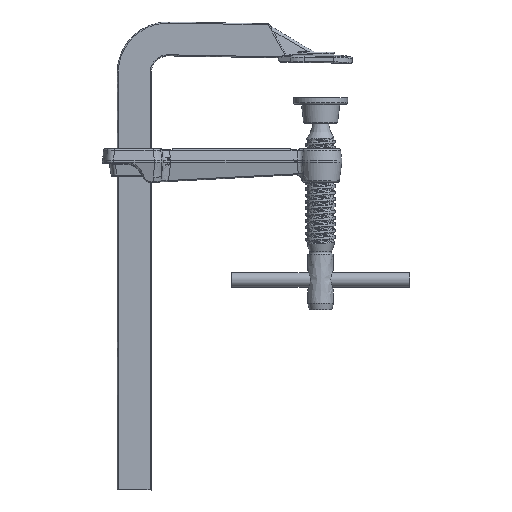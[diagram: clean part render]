
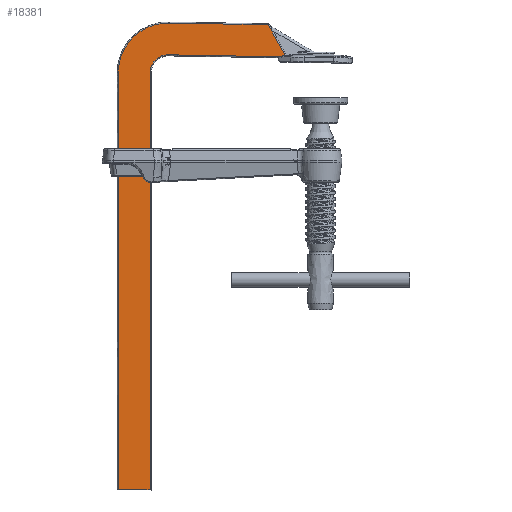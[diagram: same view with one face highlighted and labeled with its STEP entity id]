
A CAD part, top view. The second image highlights one B-rep face of the part: STEP entity #18381.
In plain terms, the highlighted free-form (B-spline) face has degree [1, 1] with [2, 2] control points.
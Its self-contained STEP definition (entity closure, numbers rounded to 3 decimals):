
#18071=CARTESIAN_POINT('',(0.111,-35.,3.75));
#18072=VERTEX_POINT('',#18071);
#18079=CARTESIAN_POINT('',(-14.889,-35.,3.75));
#18080=VERTEX_POINT('',#18079);
#18081=CARTESIAN_POINT('',(0.111,-35.,3.75));
#18082=CARTESIAN_POINT('',(-14.889,-35.,3.75));
#18083=B_SPLINE_CURVE_WITH_KNOTS('',1,(#18081,#18082),.POLYLINE_FORM.,.F.,.U.,(2,2),(0.041,0.89),.UNSPECIFIED.);
#18084=EDGE_CURVE('',#18072,#18080,#18083,.T.);
#18261=CARTESIAN_POINT('',(-21.77,-49.691,3.75));
#18262=CARTESIAN_POINT('',(-21.77,192.869,3.75));
#18263=CARTESIAN_POINT('',(80.21,-49.691,3.75));
#18264=CARTESIAN_POINT('',(80.21,192.869,3.75));
#18265=B_SPLINE_SURFACE_WITH_KNOTS('',1,1,((#18261,#18262),(#18263,#18264)),.PLANE_SURF.,.F.,.F.,.U.,(2,2),(2,2),(0.,1.),(-0.222,1.),.UNSPECIFIED.);
#18266=CARTESIAN_POINT('',(52.041,185.498,3.75));
#18267=VERTEX_POINT('',#18266);
#18268=CARTESIAN_POINT('',(60.373,171.066,3.75));
#18269=VERTEX_POINT('',#18268);
#18270=CARTESIAN_POINT('',(52.041,185.498,3.75));
#18271=CARTESIAN_POINT('',(60.373,171.066,3.75));
#18272=B_SPLINE_CURVE_WITH_KNOTS('',1,(#18270,#18271),.POLYLINE_FORM.,.F.,.U.,(2,2),(0.032,0.339),.UNSPECIFIED.);
#18273=EDGE_CURVE('',#18267,#18269,#18272,.T.);
#18274=ORIENTED_EDGE('',*,*,#18273,.F.);
#18275=CARTESIAN_POINT('',(4.897,185.498,3.75));
#18276=VERTEX_POINT('',#18275);
#18277=CARTESIAN_POINT('',(4.897,185.498,3.75));
#18278=CARTESIAN_POINT('',(52.041,185.498,3.75));
#18279=B_SPLINE_CURVE_WITH_KNOTS('',1,(#18277,#18278),.POLYLINE_FORM.,.F.,.U.,(2,2),(0.,0.651),.UNSPECIFIED.);
#18280=EDGE_CURVE('',#18276,#18267,#18279,.T.);
#18281=ORIENTED_EDGE('',*,*,#18280,.F.);
#18282=CARTESIAN_POINT('',(-18.325,161.863,3.75));
#18283=VERTEX_POINT('',#18282);
#18284=CARTESIAN_POINT('',(-18.325,161.863,3.75));
#18285=CARTESIAN_POINT('',(-18.329,162.458,3.75));
#18286=CARTESIAN_POINT('',(-18.283,163.48,3.75));
#18287=CARTESIAN_POINT('',(-18.213,164.334,3.75));
#18288=CARTESIAN_POINT('',(-18.113,165.184,3.75));
#18289=CARTESIAN_POINT('',(-17.981,166.031,3.75));
#18290=CARTESIAN_POINT('',(-17.819,166.872,3.75));
#18291=CARTESIAN_POINT('',(-17.626,167.706,3.75));
#18292=CARTESIAN_POINT('',(-17.403,168.533,3.75));
#18293=CARTESIAN_POINT('',(-17.15,169.352,3.75));
#18294=CARTESIAN_POINT('',(-16.868,170.16,3.75));
#18295=CARTESIAN_POINT('',(-16.555,170.958,3.75));
#18296=CARTESIAN_POINT('',(-16.215,171.744,3.75));
#18297=CARTESIAN_POINT('',(-15.845,172.517,3.75));
#18298=CARTESIAN_POINT('',(-15.448,173.276,3.75));
#18299=CARTESIAN_POINT('',(-15.024,174.02,3.75));
#18300=CARTESIAN_POINT('',(-14.572,174.748,3.75));
#18301=CARTESIAN_POINT('',(-14.095,175.459,3.75));
#18302=CARTESIAN_POINT('',(-13.591,176.152,3.75));
#18303=CARTESIAN_POINT('',(-13.063,176.826,3.75));
#18304=CARTESIAN_POINT('',(-12.511,177.481,3.75));
#18305=CARTESIAN_POINT('',(-11.935,178.115,3.75));
#18306=CARTESIAN_POINT('',(-11.396,178.666,3.75));
#18307=CARTESIAN_POINT('',(-10.842,179.202,3.75));
#18308=CARTESIAN_POINT('',(-10.204,179.774,3.75));
#18309=CARTESIAN_POINT('',(-9.546,180.323,3.75));
#18310=CARTESIAN_POINT('',(-8.869,180.847,3.75));
#18311=CARTESIAN_POINT('',(-8.173,181.346,3.75));
#18312=CARTESIAN_POINT('',(-7.459,181.82,3.75));
#18313=CARTESIAN_POINT('',(-6.728,182.267,3.75));
#18314=CARTESIAN_POINT('',(-5.982,182.687,3.75));
#18315=CARTESIAN_POINT('',(-5.221,183.08,3.75));
#18316=CARTESIAN_POINT('',(-4.446,183.444,3.75));
#18317=CARTESIAN_POINT('',(-3.658,183.781,3.75));
#18318=CARTESIAN_POINT('',(-2.858,184.088,3.75));
#18319=CARTESIAN_POINT('',(-2.048,184.366,3.75));
#18320=CARTESIAN_POINT('',(-1.228,184.614,3.75));
#18321=CARTESIAN_POINT('',(-0.4,184.833,3.75));
#18322=CARTESIAN_POINT('',(0.436,185.021,3.75));
#18323=CARTESIAN_POINT('',(1.278,185.178,3.75));
#18324=CARTESIAN_POINT('',(2.125,185.305,3.75));
#18325=CARTESIAN_POINT('',(2.976,185.4,3.75));
#18326=CARTESIAN_POINT('',(3.782,185.461,3.75));
#18327=CARTESIAN_POINT('',(4.406,185.488,3.75));
#18328=CARTESIAN_POINT('',(4.774,185.496,3.75));
#18329=CARTESIAN_POINT('',(4.897,185.498,3.75));
#18330=B_SPLINE_CURVE_WITH_KNOTS('',2,(#18284,#18285,#18286,#18287,#18288,#18289,#18290,#18291,#18292,#18293,#18294,#18295,#18296,#18297,#18298,#18299,#18300,#18301,#18302,#18303,#18304,#18305,#18306,#18307,#18308,#18309,#18310,#18311,#18312,#18313,#18314,#18315,#18316,#18317,#18318,#18319,#18320,#18321,#18322,#18323,#18324,#18325,#18326,#18327,#18328,#18329),.UNSPECIFIED.,.F.,.U.,(3,1,1,1,1,1,1,1,1,1,1,1,1,1,1,1,1,1,1,1,1,1,1,1,1,1,1,1,1,1,1,1,1,1,1,1,1,1,1,1,1,1,1,1,3),(0.,0.032,0.055,0.078,0.101,0.124,0.147,0.17,0.192,0.215,0.238,0.261,0.284,0.307,0.33,0.353,0.376,0.399,0.422,0.445,0.468,0.491,0.509,0.532,0.555,0.578,0.601,0.624,0.647,0.67,0.693,0.716,0.739,0.762,0.785,0.808,0.83,0.853,0.876,0.899,0.922,0.945,0.966,0.979,0.985),.UNSPECIFIED.);
#18331=EDGE_CURVE('',#18283,#18276,#18330,.T.);
#18332=ORIENTED_EDGE('',*,*,#18331,.F.);
#18333=CARTESIAN_POINT('',(-14.889,-35.,3.75));
#18334=CARTESIAN_POINT('',(-18.325,161.863,3.75));
#18335=B_SPLINE_CURVE_WITH_KNOTS('',1,(#18333,#18334),.POLYLINE_FORM.,.F.,.U.,(2,2),(0.064,0.922),.UNSPECIFIED.);
#18336=EDGE_CURVE('',#18080,#18283,#18335,.T.);
#18337=ORIENTED_EDGE('',*,*,#18336,.F.);
#18338=ORIENTED_EDGE('',*,*,#18084,.F.);
#18339=CARTESIAN_POINT('',(-3.325,161.852,3.75));
#18340=VERTEX_POINT('',#18339);
#18341=CARTESIAN_POINT('',(0.111,-35.,3.75));
#18342=CARTESIAN_POINT('',(-3.325,161.852,3.75));
#18343=B_SPLINE_CURVE_WITH_KNOTS('',1,(#18341,#18342),.POLYLINE_FORM.,.F.,.U.,(2,2),(0.069,1.),.UNSPECIFIED.);
#18344=EDGE_CURVE('',#18072,#18340,#18343,.T.);
#18345=ORIENTED_EDGE('',*,*,#18344,.T.);
#18346=CARTESIAN_POINT('',(5.173,170.5,3.75));
#18347=VERTEX_POINT('',#18346);
#18348=CARTESIAN_POINT('',(-3.325,161.852,3.75));
#18349=CARTESIAN_POINT('',(-3.387,165.415,3.75));
#18350=CARTESIAN_POINT('',(-0.889,167.958,3.75));
#18351=CARTESIAN_POINT('',(1.609,170.5,3.75));
#18352=CARTESIAN_POINT('',(5.173,170.5,3.75));
#18353=(BOUNDED_CURVE()B_SPLINE_CURVE(2,(#18348,#18349,#18350,#18351,#18352),.CIRCULAR_ARC.,.F.,.U.)B_SPLINE_CURVE_WITH_KNOTS((3,2,3),(0.,0.5,1.),.UNSPECIFIED.)CURVE()GEOMETRIC_REPRESENTATION_ITEM()RATIONAL_B_SPLINE_CURVE((1.,0.922,1.,0.922,1.))REPRESENTATION_ITEM(''));
#18354=EDGE_CURVE('',#18340,#18347,#18353,.T.);
#18355=ORIENTED_EDGE('',*,*,#18354,.T.);
#18356=CARTESIAN_POINT('',(58.751,170.5,3.75));
#18357=VERTEX_POINT('',#18356);
#18358=CARTESIAN_POINT('',(5.173,170.5,3.75));
#18359=CARTESIAN_POINT('',(58.75,170.5,3.75));
#18360=B_SPLINE_CURVE_WITH_KNOTS('',1,(#18358,#18359),.POLYLINE_FORM.,.F.,.U.,(2,2),(0.,0.745),.UNSPECIFIED.);
#18361=EDGE_CURVE('',#18347,#18357,#18360,.T.);
#18362=ORIENTED_EDGE('',*,*,#18361,.T.);
#18363=CARTESIAN_POINT('',(59.439,170.968,3.75));
#18364=VERTEX_POINT('',#18363);
#18365=CARTESIAN_POINT('',(59.439,170.968,3.75));
#18366=CARTESIAN_POINT('',(59.176,170.94,3.75));
#18367=CARTESIAN_POINT('',(58.829,170.819,3.75));
#18368=CARTESIAN_POINT('',(58.756,170.54,3.75));
#18369=CARTESIAN_POINT('',(58.753,170.518,3.75));
#18370=CARTESIAN_POINT('',(58.751,170.5,3.75));
#18371=B_SPLINE_CURVE_WITH_KNOTS('',3,(#18365,#18366,#18367,#18368,#18369,#18370),.UNSPECIFIED.,.F.,.U.,(4,2,4),(0.,1.,1.046),.UNSPECIFIED.);
#18372=EDGE_CURVE('',#18364,#18357,#18371,.T.);
#18373=ORIENTED_EDGE('',*,*,#18372,.F.);
#18374=CARTESIAN_POINT('',(60.373,171.066,3.75));
#18375=CARTESIAN_POINT('',(59.439,170.968,3.75));
#18376=B_SPLINE_CURVE_WITH_KNOTS('',1,(#18374,#18375),.POLYLINE_FORM.,.F.,.U.,(2,2),(0.764,0.908),.UNSPECIFIED.);
#18377=EDGE_CURVE('',#18269,#18364,#18376,.T.);
#18378=ORIENTED_EDGE('',*,*,#18377,.F.);
#18379=EDGE_LOOP('',(#18274,#18281,#18332,#18337,#18338,#18345,#18355,#18362,#18373,#18378));
#18380=FACE_OUTER_BOUND('',#18379,.T.);
#18381=ADVANCED_FACE('',(#18380),#18265,.T.);
